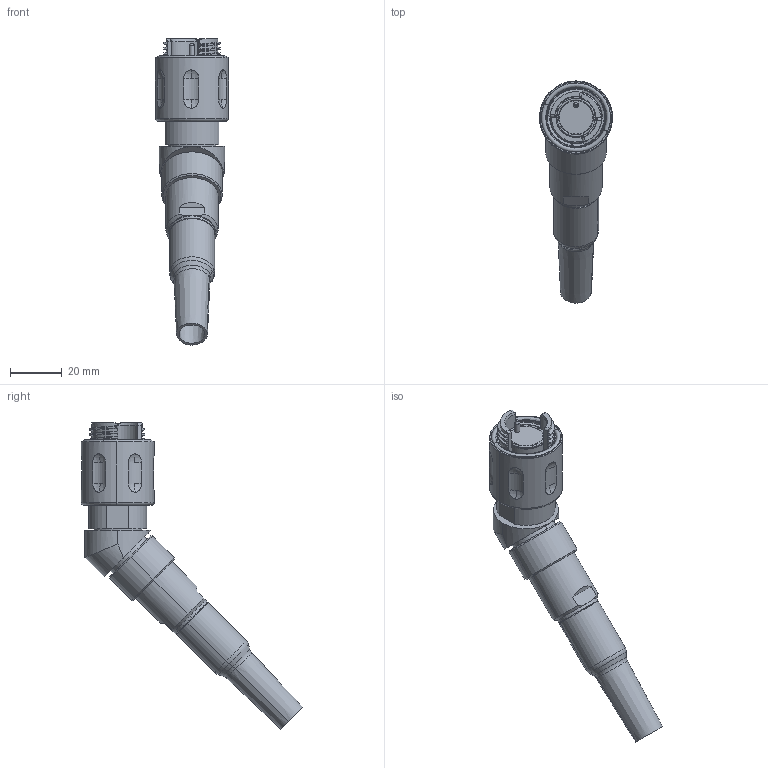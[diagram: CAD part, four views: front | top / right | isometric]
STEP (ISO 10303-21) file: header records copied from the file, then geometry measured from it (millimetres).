
FILE_DESCRIPTION (( 'STEP AP214' ), '1' );
FILE_NAME ('QMINI45S-PEXX-XXXX-S105.STEP', '2025-05-22T22:00:57', ( '' ), ( '' ), 'SwSTEP 2.0', 'SolidWorks 2024', '' );
FILE_SCHEMA (( 'AUTOMOTIVE_DESIGN' ));
Length unit declared in the file: inch
Products named in the file (1): QMINI45S-PEXX-XXXX-S105
Bounding box: 28.34 x 86.03 x 118.8 mm (x, y, z)
Volume: 40558.2 mm3; surface area: 17101.6 mm2
Topology: 1 solids, 2 shells, 295 faces, 720 edges, 454 vertices
Faces by surface type: cylinder 107, plane 63, cone 49, torus 32, sphere 24, bspline 20
Entity records: 11323 total; most frequent: CARTESIAN_POINT 4574, ORIENTED_EDGE 1440, DIRECTION 1398, EDGE_CURVE 720, AXIS2_PLACEMENT_3D 576, VERTEX_POINT 454, EDGE_LOOP 326, CIRCLE 300
